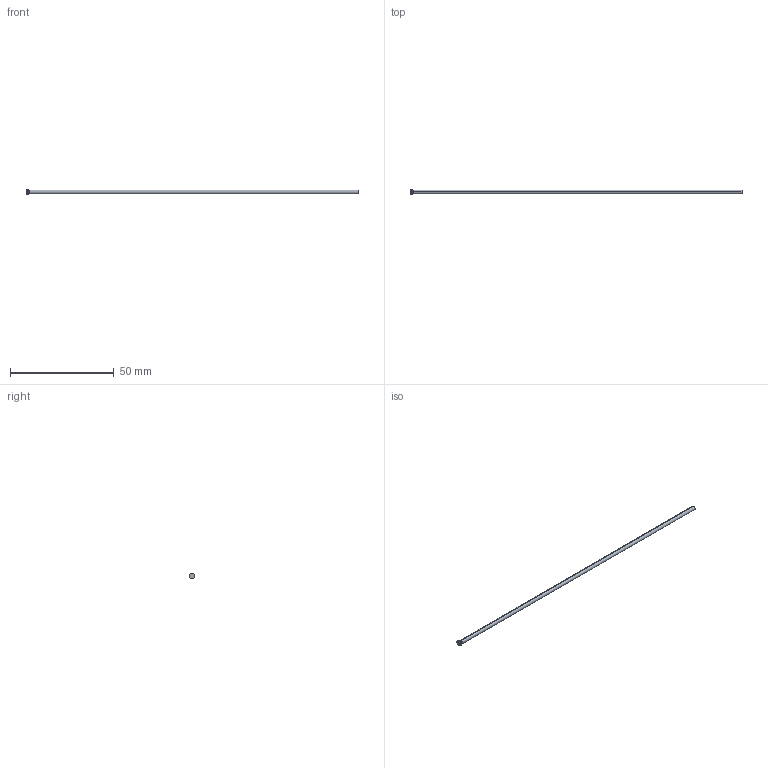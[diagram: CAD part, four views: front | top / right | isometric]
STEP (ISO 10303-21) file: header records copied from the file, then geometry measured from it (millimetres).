
FILE_DESCRIPTION (( 'STEP AP214' ), '1' );
FILE_NAME ('D-1,9x160.STEP', '2020-06-08T09:44:27', ( 'August' ), ( '' ), 'SwSTEP 2.0', 'SolidWorks 2018', '' );
FILE_SCHEMA (( 'AUTOMOTIVE_DESIGN' ));
Length unit declared in the file: millimetre
Products named in the file (1): D-1,9x160
Bounding box: 160 x 2.8 x 2.8 mm (x, y, z)
Volume: 456.6 mm3; surface area: 967.4 mm2
Topology: 1 solids, 1 shells, 10 faces, 18 edges, 10 vertices
Faces by surface type: cylinder 4, torus 2, cone 2, plane 2
Entity records: 280 total; most frequent: DIRECTION 52, CARTESIAN_POINT 39, ORIENTED_EDGE 36, AXIS2_PLACEMENT_3D 23, EDGE_CURVE 18, CIRCLE 12, FACE_OUTER_BOUND 10, EDGE_LOOP 10
